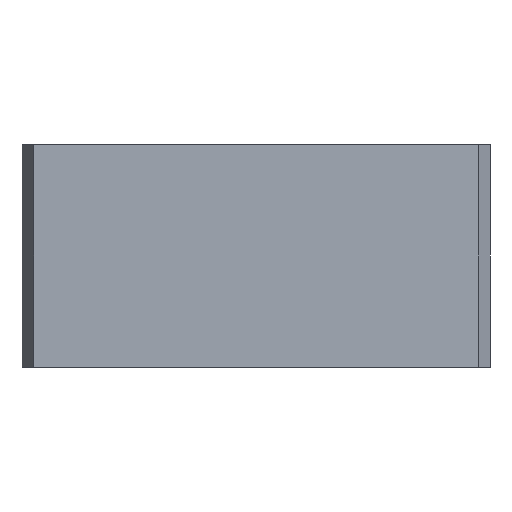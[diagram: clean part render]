
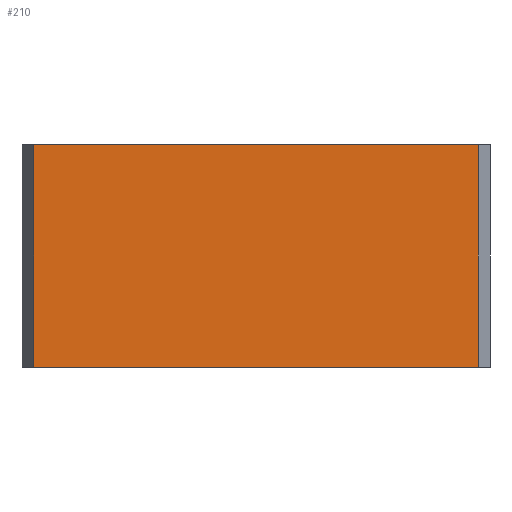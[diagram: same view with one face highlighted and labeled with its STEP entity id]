
A CAD part, front view. The second image highlights one B-rep face of the part: STEP entity #210.
In plain terms, the highlighted planar face has unit normal (0, -1, 0).
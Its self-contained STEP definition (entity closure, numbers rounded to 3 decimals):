
#7 = CARTESIAN_POINT ( 'NONE',  ( 0., 0., 1000. ) ) ;
#11 = VECTOR ( 'NONE', #101, 1000. ) ;
#17 = EDGE_CURVE ( 'NONE', #185, #272, #285, .T. ) ;
#22 = LINE ( 'NONE', #222, #294 ) ;
#28 = VECTOR ( 'NONE', #52, 1000. ) ;
#30 = CARTESIAN_POINT ( 'NONE',  ( 1996.077, 0., 1000. ) ) ;
#41 = ORIENTED_EDGE ( 'NONE', *, *, #44, .T. ) ;
#44 = EDGE_CURVE ( 'NONE', #99, #315, #343, .T. ) ;
#52 = DIRECTION ( 'NONE',  ( 0., 0., -1. ) ) ;
#61 = CARTESIAN_POINT ( 'NONE',  ( 0., 0., 0. ) ) ;
#82 = DIRECTION ( 'NONE',  ( 0., 0., 1. ) ) ;
#99 = VERTEX_POINT ( 'NONE', #7 ) ;
#101 = DIRECTION ( 'NONE',  ( 0., 0., -1. ) ) ;
#116 = CARTESIAN_POINT ( 'NONE',  ( 1996.077, 0., 0. ) ) ;
#138 = PLANE ( 'NONE',  #261 ) ;
#144 = CARTESIAN_POINT ( 'NONE',  ( 0., 0., 0. ) ) ;
#162 = DIRECTION ( 'NONE',  ( 1., 0., 0. ) ) ;
#173 = ORIENTED_EDGE ( 'NONE', *, *, #17, .F. ) ;
#177 = ORIENTED_EDGE ( 'NONE', *, *, #250, .T. ) ;
#179 = VECTOR ( 'NONE', #204, 1000. ) ;
#184 = EDGE_CURVE ( 'NONE', #99, #185, #22, .T. ) ;
#185 = VERTEX_POINT ( 'NONE', #30 ) ;
#204 = DIRECTION ( 'NONE',  ( 1., 0., 0. ) ) ;
#210 = ADVANCED_FACE ( 'NONE', ( #331 ), #138, .F. ) ;
#222 = CARTESIAN_POINT ( 'NONE',  ( 0., 0., 1000. ) ) ;
#242 = CARTESIAN_POINT ( 'NONE',  ( 1996.077, 0., 1000. ) ) ;
#244 = DIRECTION ( 'NONE',  ( 0., 1., 0. ) ) ;
#250 = EDGE_CURVE ( 'NONE', #315, #272, #302, .T. ) ;
#261 = AXIS2_PLACEMENT_3D ( 'NONE', #324, #244, #82 ) ;
#265 = CARTESIAN_POINT ( 'NONE',  ( 0., 0., 1000. ) ) ;
#272 = VERTEX_POINT ( 'NONE', #116 ) ;
#284 = EDGE_LOOP ( 'NONE', ( #177, #173, #318, #41 ) ) ;
#285 = LINE ( 'NONE', #242, #11 ) ;
#294 = VECTOR ( 'NONE', #162, 1000. ) ;
#302 = LINE ( 'NONE', #144, #179 ) ;
#315 = VERTEX_POINT ( 'NONE', #61 ) ;
#318 = ORIENTED_EDGE ( 'NONE', *, *, #184, .F. ) ;
#324 = CARTESIAN_POINT ( 'NONE',  ( 0., 0., 1000. ) ) ;
#331 = FACE_OUTER_BOUND ( 'NONE', #284, .T. ) ;
#343 = LINE ( 'NONE', #265, #28 ) ;
